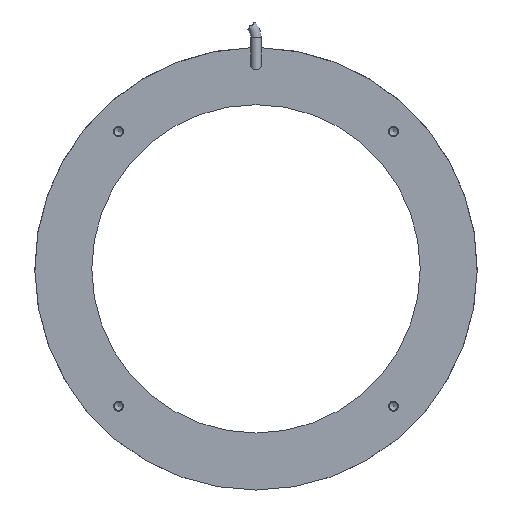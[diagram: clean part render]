
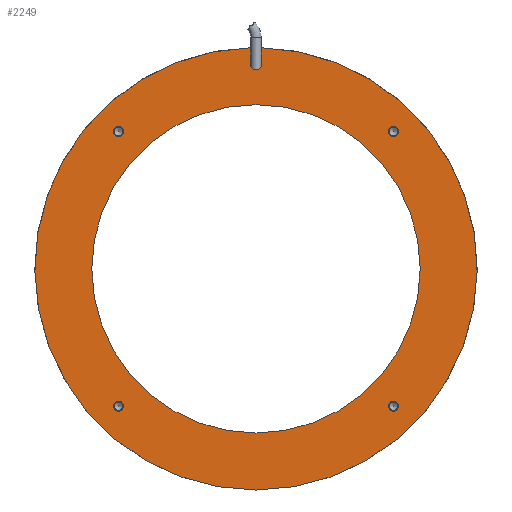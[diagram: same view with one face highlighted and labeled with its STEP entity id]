
A CAD part, front view. The second image highlights one B-rep face of the part: STEP entity #2249.
In plain terms, the highlighted planar face has unit normal (0, -1, 0).
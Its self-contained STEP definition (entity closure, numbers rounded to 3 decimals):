
#51=FACE_BOUND('',#404,.T.);
#52=FACE_BOUND('',#405,.T.);
#53=FACE_BOUND('',#406,.T.);
#54=FACE_BOUND('',#407,.T.);
#55=FACE_BOUND('',#408,.T.);
#249=FACE_OUTER_BOUND('',#403,.T.);
#403=EDGE_LOOP('',(#1634,#1635,#1636,#1637,#1638));
#404=EDGE_LOOP('',(#1639,#1640));
#405=EDGE_LOOP('',(#1641,#1642));
#406=EDGE_LOOP('',(#1643,#1644));
#407=EDGE_LOOP('',(#1645,#1646));
#408=EDGE_LOOP('',(#1647));
#567=LINE('',#4521,#650);
#570=LINE('',#4529,#653);
#650=VECTOR('',#2837,1000.);
#653=VECTOR('',#2844,1000.);
#729=CIRCLE('',#2431,66.);
#730=CIRCLE('',#2432,1.6);
#731=CIRCLE('',#2433,1.6);
#732=CIRCLE('',#2434,1.5);
#733=CIRCLE('',#2435,1.5);
#734=CIRCLE('',#2436,1.5);
#735=CIRCLE('',#2437,1.5);
#736=CIRCLE('',#2438,1.5);
#737=CIRCLE('',#2439,1.5);
#738=CIRCLE('',#2440,1.5);
#739=CIRCLE('',#2441,1.5);
#740=CIRCLE('',#2442,49.);
#968=VERTEX_POINT('',#4517);
#970=VERTEX_POINT('',#4520);
#972=VERTEX_POINT('',#4526);
#973=VERTEX_POINT('',#4528);
#974=VERTEX_POINT('',#4530);
#975=VERTEX_POINT('',#4533);
#976=VERTEX_POINT('',#4534);
#977=VERTEX_POINT('',#4537);
#978=VERTEX_POINT('',#4538);
#979=VERTEX_POINT('',#4541);
#980=VERTEX_POINT('',#4542);
#981=VERTEX_POINT('',#4545);
#982=VERTEX_POINT('',#4546);
#983=VERTEX_POINT('',#4549);
#1242=EDGE_CURVE('',#970,#968,#567,.T.);
#1245=EDGE_CURVE('',#968,#972,#729,.T.);
#1246=EDGE_CURVE('',#973,#972,#570,.T.);
#1247=EDGE_CURVE('',#974,#973,#730,.T.);
#1248=EDGE_CURVE('',#970,#974,#731,.T.);
#1249=EDGE_CURVE('',#975,#976,#732,.T.);
#1250=EDGE_CURVE('',#976,#975,#733,.T.);
#1251=EDGE_CURVE('',#977,#978,#734,.T.);
#1252=EDGE_CURVE('',#978,#977,#735,.T.);
#1253=EDGE_CURVE('',#979,#980,#736,.T.);
#1254=EDGE_CURVE('',#980,#979,#737,.T.);
#1255=EDGE_CURVE('',#981,#982,#738,.T.);
#1256=EDGE_CURVE('',#982,#981,#739,.T.);
#1257=EDGE_CURVE('',#983,#983,#740,.T.);
#1634=ORIENTED_EDGE('',*,*,#1245,.T.);
#1635=ORIENTED_EDGE('',*,*,#1246,.F.);
#1636=ORIENTED_EDGE('',*,*,#1247,.F.);
#1637=ORIENTED_EDGE('',*,*,#1248,.F.);
#1638=ORIENTED_EDGE('',*,*,#1242,.T.);
#1639=ORIENTED_EDGE('',*,*,#1249,.F.);
#1640=ORIENTED_EDGE('',*,*,#1250,.F.);
#1641=ORIENTED_EDGE('',*,*,#1251,.F.);
#1642=ORIENTED_EDGE('',*,*,#1252,.F.);
#1643=ORIENTED_EDGE('',*,*,#1253,.F.);
#1644=ORIENTED_EDGE('',*,*,#1254,.F.);
#1645=ORIENTED_EDGE('',*,*,#1255,.F.);
#1646=ORIENTED_EDGE('',*,*,#1256,.F.);
#1647=ORIENTED_EDGE('',*,*,#1257,.F.);
#2169=PLANE('',#2430);
#2249=ADVANCED_FACE('',(#249,#51,#52,#53,#54,#55),#2169,.T.);
#2430=AXIS2_PLACEMENT_3D('',#4525,#2840,#2841);
#2431=AXIS2_PLACEMENT_3D('',#4527,#2842,#2843);
#2432=AXIS2_PLACEMENT_3D('',#4531,#2845,#2846);
#2433=AXIS2_PLACEMENT_3D('',#4532,#2847,#2848);
#2434=AXIS2_PLACEMENT_3D('',#4535,#2849,#2850);
#2435=AXIS2_PLACEMENT_3D('',#4536,#2851,#2852);
#2436=AXIS2_PLACEMENT_3D('',#4539,#2853,#2854);
#2437=AXIS2_PLACEMENT_3D('',#4540,#2855,#2856);
#2438=AXIS2_PLACEMENT_3D('',#4543,#2857,#2858);
#2439=AXIS2_PLACEMENT_3D('',#4544,#2859,#2860);
#2440=AXIS2_PLACEMENT_3D('',#4547,#2861,#2862);
#2441=AXIS2_PLACEMENT_3D('',#4548,#2863,#2864);
#2442=AXIS2_PLACEMENT_3D('',#4550,#2865,#2866);
#2837=DIRECTION('',(0.,0.,1.));
#2840=DIRECTION('center_axis',(0.,-1.,0.));
#2841=DIRECTION('ref_axis',(0.,0.,
-1.));
#2842=DIRECTION('center_axis',(0.,-1.,0.));
#2843=DIRECTION('ref_axis',(0.,0.,
-1.));
#2844=DIRECTION('',(0.,0.,1.));
#2845=DIRECTION('center_axis',(0.,-1.,0.));
#2846=DIRECTION('ref_axis',(0.,0.,
-1.));
#2847=DIRECTION('center_axis',(0.,-1.,0.));
#2848=DIRECTION('ref_axis',(0.,0.,
-1.));
#2849=DIRECTION('center_axis',(0.,-1.,0.));
#2850=DIRECTION('ref_axis',(0.,0.,
-1.));
#2851=DIRECTION('center_axis',(0.,-1.,0.));
#2852=DIRECTION('ref_axis',(0.,0.,
-1.));
#2853=DIRECTION('center_axis',(0.,-1.,0.));
#2854=DIRECTION('ref_axis',(0.,0.,
-1.));
#2855=DIRECTION('center_axis',(0.,-1.,0.));
#2856=DIRECTION('ref_axis',(0.,0.,
-1.));
#2857=DIRECTION('center_axis',(0.,-1.,0.));
#2858=DIRECTION('ref_axis',(0.,0.,
-1.));
#2859=DIRECTION('center_axis',(0.,-1.,0.));
#2860=DIRECTION('ref_axis',(0.,0.,
-1.));
#2861=DIRECTION('center_axis',(0.,-1.,0.));
#2862=DIRECTION('ref_axis',(0.,0.,
-1.));
#2863=DIRECTION('center_axis',(0.,-1.,0.));
#2864=DIRECTION('ref_axis',(0.,0.,
-1.));
#2865=DIRECTION('center_axis',(0.,-1.,0.));
#2866=DIRECTION('ref_axis',(0.,0.,
-1.));
#4517=CARTESIAN_POINT('',(-1.6,0.,65.981));
#4520=CARTESIAN_POINT('',(-1.6,0.,61.));
#4521=CARTESIAN_POINT('',(-1.6,0.,-66.001));
#4525=CARTESIAN_POINT('Origin',(49.,0.,0.));
#4526=CARTESIAN_POINT('',(1.6,0.,65.981));
#4527=CARTESIAN_POINT('Origin',(0.,0.,
0.));
#4528=CARTESIAN_POINT('',(1.6,0.,61.));
#4529=CARTESIAN_POINT('',(1.6,0.,-66.001));
#4530=CARTESIAN_POINT('',(0.,0.,59.4));
#4531=CARTESIAN_POINT('Origin',(0.,0.,
61.));
#4532=CARTESIAN_POINT('Origin',(0.,0.,
61.));
#4533=CARTESIAN_POINT('',(-41.012,0.,-42.512));
#4534=CARTESIAN_POINT('',(-41.012,0.,-39.512));
#4535=CARTESIAN_POINT('Origin',(-41.012,0.,
-41.012));
#4536=CARTESIAN_POINT('Origin',(-41.012,0.,
-41.012));
#4537=CARTESIAN_POINT('',(41.012,0.,-42.512));
#4538=CARTESIAN_POINT('',(41.012,0.,-39.512));
#4539=CARTESIAN_POINT('Origin',(41.012,0.,
-41.012));
#4540=CARTESIAN_POINT('Origin',(41.012,0.,
-41.012));
#4541=CARTESIAN_POINT('',(41.012,0.,39.512));
#4542=CARTESIAN_POINT('',(41.012,0.,42.512));
#4543=CARTESIAN_POINT('Origin',(41.012,0.,41.012));
#4544=CARTESIAN_POINT('Origin',(41.012,0.,41.012));
#4545=CARTESIAN_POINT('',(-41.012,0.,39.512));
#4546=CARTESIAN_POINT('',(-41.012,0.,42.512));
#4547=CARTESIAN_POINT('Origin',(-41.012,0.,41.012));
#4548=CARTESIAN_POINT('Origin',(-41.012,0.,41.012));
#4549=CARTESIAN_POINT('',(0.,0.,49.));
#4550=CARTESIAN_POINT('Origin',(0.,0.,
0.));
